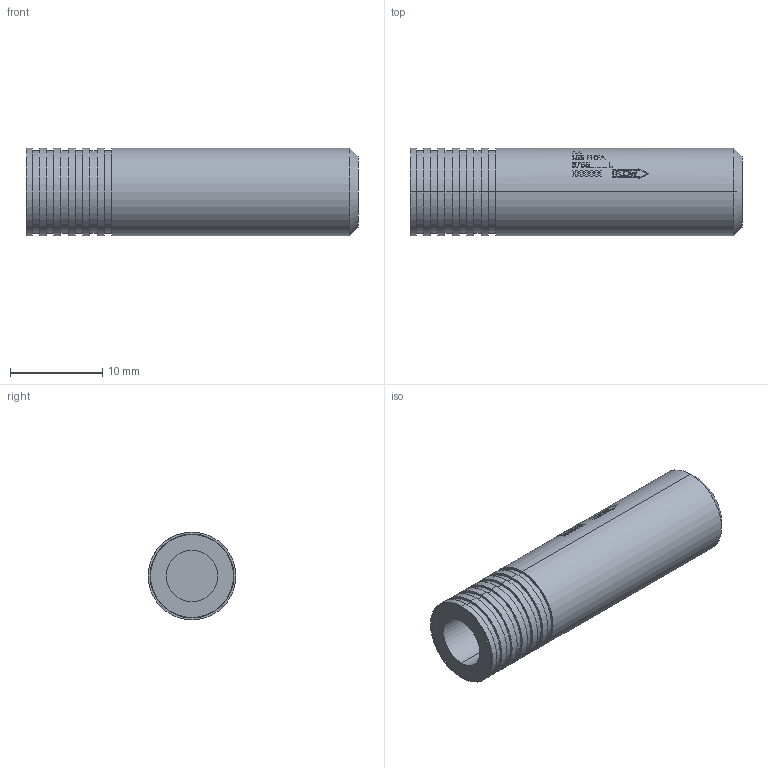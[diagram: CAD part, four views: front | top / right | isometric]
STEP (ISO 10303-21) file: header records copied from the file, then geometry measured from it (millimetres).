
FILE_DESCRIPTION (( 'STEP AP214' ), '1' );
FILE_NAME ('3DFHFA3755---L.STEP', '2021-03-29T12:15:36', ( '' ), ( '' ), 'SwSTEP 2.0', 'SolidWorks 2019', '' );
FILE_SCHEMA (( 'AUTOMOTIVE_DESIGN' ));
Length unit declared in the file: inch
Products named in the file (1): 3DFHFA3755---L
Bounding box: 36.07 x 9.52 x 9.52 mm (x, y, z)
Volume: 2270.3 mm3; surface area: 1481 mm2
Topology: 1 solids, 1 shells, 370 faces, 965 edges, 642 vertices
Faces by surface type: plane 178, bspline 127, cylinder 61, cone 4
Entity records: 17557 total; most frequent: CARTESIAN_POINT 5344, ORIENTED_EDGE 1930, DIRECTION 1200, EDGE_CURVE 965, VERTEX_POINT 642, B_SPLINE_CURVE_WITH_KNOTS 433, AXIS2_PLACEMENT_3D 424, EDGE_LOOP 415
